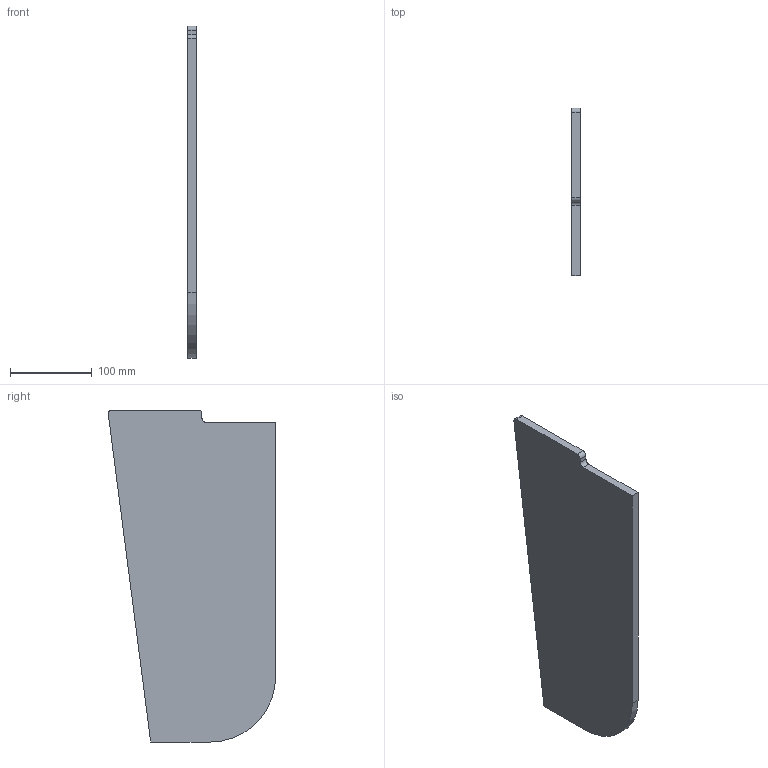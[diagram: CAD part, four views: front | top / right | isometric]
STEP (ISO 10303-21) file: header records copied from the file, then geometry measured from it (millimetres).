
FILE_DESCRIPTION((''),'2;1');
FILE_NAME('OS1361','2021-01-27T',('smide'),(''),'CREO PARAMETRIC BY PTC INC, 2018360','CREO PARAMETRIC BY PTC INC, 2018360','');
FILE_SCHEMA(('CONFIG_CONTROL_DESIGN'));
Length unit declared in the file: millimetre
Products named in the file (1): OS1361
Bounding box: 10 x 204.38 x 405.3 mm (x, y, z)
Volume: 697667.8 mm3; surface area: 150835.7 mm2
Topology: 1 solids, 1 shells, 12 faces, 30 edges, 20 vertices
Faces by surface type: plane 8, cylinder 4
Entity records: 404 total; most frequent: DIRECTION 64, CARTESIAN_POINT 63, ORIENTED_EDGE 60, EDGE_CURVE 30, VECTOR 22, LINE 22, AXIS2_PLACEMENT_3D 21, VERTEX_POINT 20
